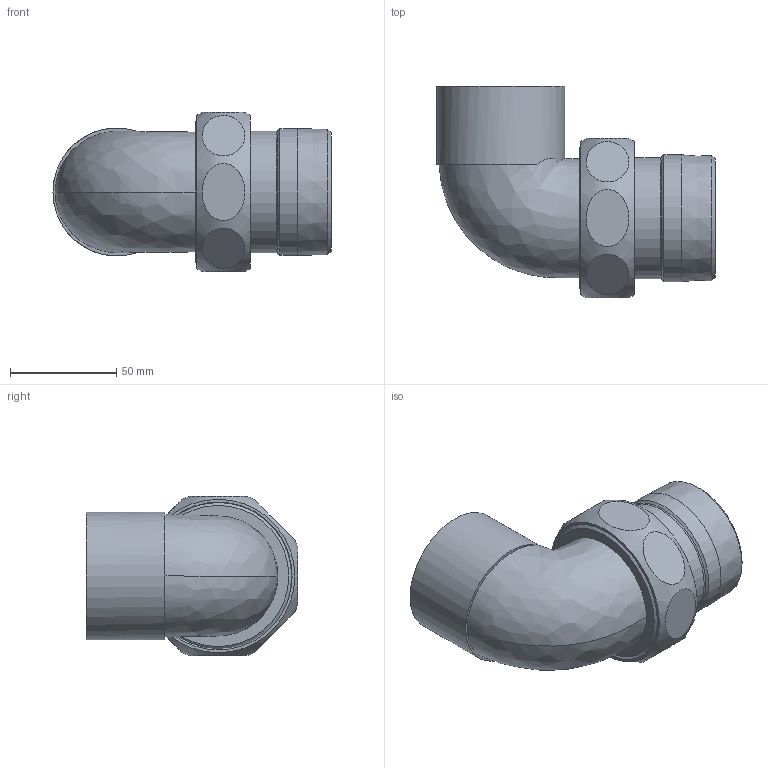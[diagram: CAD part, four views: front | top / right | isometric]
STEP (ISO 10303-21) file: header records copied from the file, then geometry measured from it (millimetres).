
FILE_DESCRIPTION((''),'2;1');
FILE_NAME('C:\Users\gomulka\Desktop\Lohse\14098542\14098542.stp','2014-08-28T11:26:40',('gomulka'),(''),'Autodesk Inventor 2009','Autodesk Inventor 2009','');
FILE_SCHEMA(('AUTOMOTIVE_DESIGN { 1 0 10303 214 1 1 1 1 }'));
Length unit declared in the file: millimetre
Products named in the file (4): Zespół12; 1E4098G54238; 14382_2-238(1); 14374_238(2)
Assembly tree (3 placements, depth 2):
  Zespół12
    1E4098G54238
    14382_2-238(1)
    14374_238(2)
Bounding box: 130.61 x 99.42 x 74.85 mm (x, y, z)
Volume: 133597.8 mm3; surface area: 74771.6 mm2
Topology: 3 solids, 3 shells, 59 faces, 140 edges, 98 vertices
Faces by surface type: plane 20, cylinder 17, cone 12, bspline 9, torus 1
Full cylindrical faces by diameter (mm): 54 x1, 57 x1, 59.61 x1, 60 x1, 60.5 x1, 64.5 x1, 65.5 x1, 66.44 x1
Entity records: 5834 total; most frequent: CARTESIAN_POINT 4565, ORIENTED_EDGE 234, DIRECTION 200, EDGE_CURVE 117, EDGE_LOOP 96, AXIS2_PLACEMENT_3D 95, VERTEX_POINT 95, FACE_OUTER_BOUND 59
